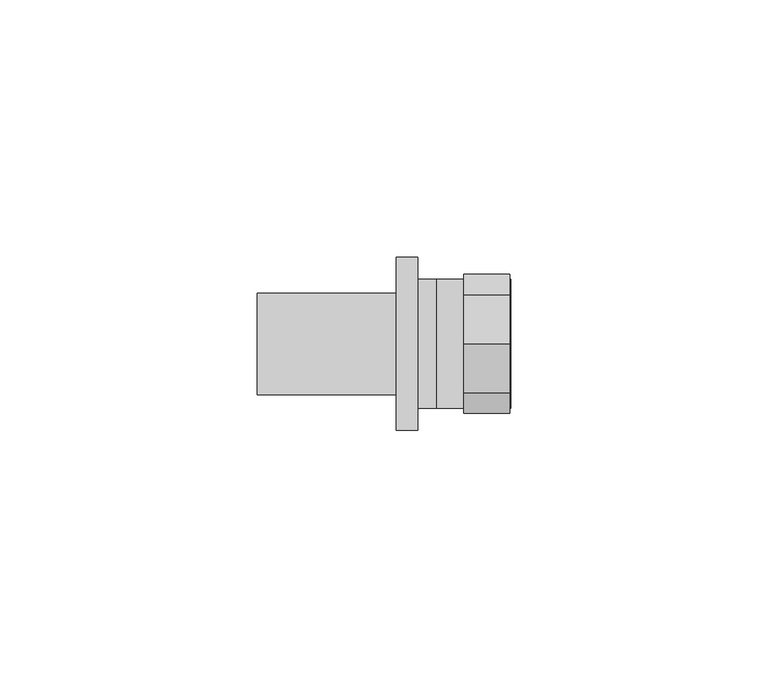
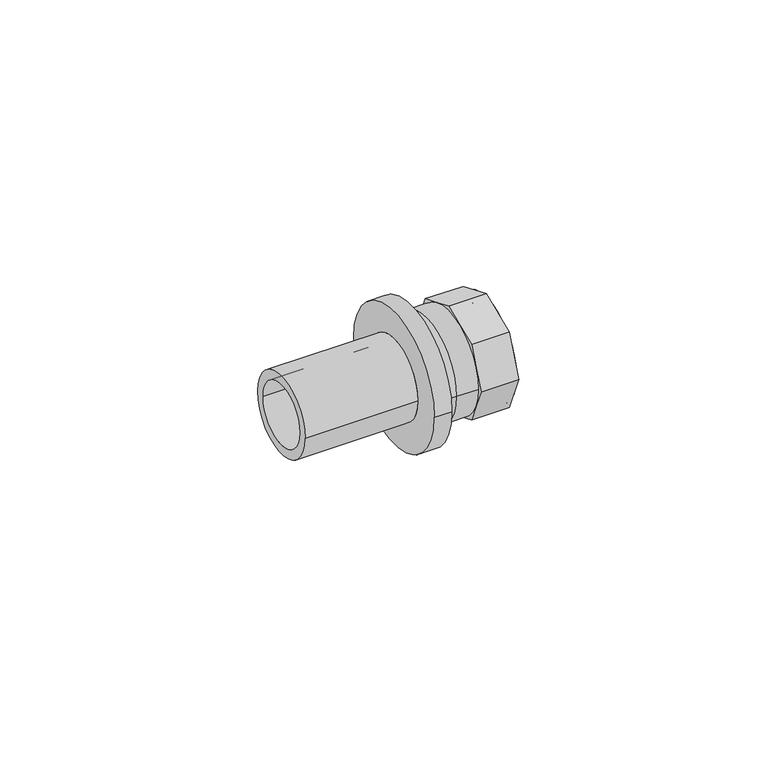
"""IFC4 building model written with IfcOpenShell, lengths in millimetres: pipe fitting geometry, REHAU_RAUTITAN_Adaptor_RX+, with internal thread : REHAU_RAUTITAN_Adaptor_RX+, with internal thread."""

from ifc_helpers import new_model, si_unit, point, frame, origin, origin_2d, place, context, project, spatial, polyline, circle_curve, trimmed, segment, composite_curve, outline, extrude, source, transform, mapped, element, save
from ifc_brep_helpers import plane_surface, cylinder_surface, revolved_surface, advanced_brep


def pipe_fitting_6d607381(model_context):
    return source(origin(), model_context, "Body", "SolidModel", [
        advanced_brep(
        [(4.5, -9.5670858, 9.5670858), (4.5, -13.5299025, 0.0), (4.5, -9.5670858, -9.5670858), (4.5, 0.0, -13.5299025), (4.5, 9.5670858, -9.5670858), (4.5, 13.5299025, 0.0), (4.5, 9.5670858, 9.5670858), (4.5, 0.0, 13.5299025), (4.5, -9.5, 0.0), (4.5, 9.5, 0.0), (-4.5, 10.19, 0.0), (-4.5, -10.19, 0.0), (-4.5, -9.5, 0.0), (-4.5, 9.5, 0.0), (-4.5, -9.5670858, 9.5670858), (-4.5, -4.7835429, 11.5484942), (-4.5, -11.5484942, 4.7835429), (-4.5, 0.0, 13.5299025), (-4.5, 4.7835429, 11.5484942), (-4.5, 9.5670858, 9.5670858), (-4.5, 11.5484942, 4.7835429), (-4.5, 13.5299025, 0.0), (-4.5, 11.5484942, -4.7835429), (-4.5, 12.5, 0.0), (-4.5, 9.5670858, -9.5670858), (-4.5, 4.7835429, -11.5484942), (-4.5, 0.0, -13.5299025), (-4.5, -4.7835429, -11.5484942), (-4.5, -9.5670858, -9.5670858), (-4.5, -11.5484942, -4.7835429), (-4.5, -13.5299025, 0.0), (-4.5, -12.5, 0.0), (-9.82, 12.5, 0.0), (-9.82, -12.5, 0.0), (-13.36, -12.5, 0.0), (-13.36, 12.5, 0.0), (-9.82, 10.19, 0.0), (-9.82, -10.19, 0.0), (-44.56, 7.6, 0.0), (-44.56, -7.6, 0.0), (-13.36, -7.6, 0.0), (-13.36, 7.6, 0.0), (-17.57, 9.875, 0.0), (-17.57, -9.875, 0.0), (-44.56, -9.875, 0.0), (-44.56, 9.875, 0.0), (-13.36, 16.795, 0.0), (-13.36, -16.795, 0.0), (-17.57, -16.795, 0.0), (-17.57, 16.795, 0.0)],
        [
            (0, 1),
            (1, 2),
            (2, 3),
            (3, 4),
            (4, 5),
            (5, 6),
            (6, 7),
            (7, 0),
            (8, 9, circle_curve(frame((4.5, 0.0, 0.0), z_axis=(-1.0, 0.0, 0.0), x_axis=(0.0, 1.0, 0.0)), 9.5)),
            (9, 8, circle_curve(frame((4.5, 0.0, 0.0), z_axis=(-1.0, 0.0, 0.0), x_axis=(0.0, 1.0, 0.0)), 9.5)),
            (10, 11, circle_curve(frame((-4.5, 0.0, 0.0), z_axis=(-1.0, 0.0, 0.0), x_axis=(0.0, -1.0, 0.0)), 10.19)),
            (11, 10, circle_curve(frame((-4.5, 0.0, 0.0), z_axis=(-1.0, 0.0, 0.0), x_axis=(0.0, 1.0, 0.0)), 10.19)),
            (12, 13, circle_curve(frame((-4.5, 0.0, 0.0), z_axis=(1.0, 0.0, 0.0), x_axis=(0.0, 1.0, 0.0)), 9.5)),
            (13, 12, circle_curve(frame((-4.5, 0.0, 0.0), z_axis=(1.0, 0.0, 0.0), x_axis=(0.0, 1.0, 0.0)), 9.5)),
            (14, 15),
            (15, 16, circle_curve(frame((-4.5, 0.0, 0.0), z_axis=(1.0, 0.0, 0.0), x_axis=(0.0, 1.0, 0.0)), 12.5)),
            (16, 14),
            (15, 17),
            (17, 18),
            (18, 15, circle_curve(frame((-4.5, 0.0, 0.0), z_axis=(1.0, 0.0, 0.0), x_axis=(0.0, 1.0, 0.0)), 12.5)),
            (18, 19),
            (19, 20),
            (20, 18, circle_curve(frame((-4.5, 0.0, 0.0), z_axis=(1.0, 0.0, 0.0), x_axis=(0.0, 1.0, 0.0)), 12.5)),
            (20, 21),
            (21, 22),
            (22, 23, circle_curve(frame((-4.5, 0.0, 0.0), z_axis=(1.0, 0.0, 0.0), x_axis=(0.0, -1.0, 0.0)), 12.5)),
            (23, 20, circle_curve(frame((-4.5, 0.0, 0.0), z_axis=(1.0, 0.0, 0.0), x_axis=(0.0, 1.0, 0.0)), 12.5)),
            (22, 24),
            (24, 25),
            (25, 22, circle_curve(frame((-4.5, 0.0, 0.0), z_axis=(1.0, 0.0, 0.0), x_axis=(0.0, -1.0, 0.0)), 12.5)),
            (25, 26),
            (26, 27),
            (27, 25, circle_curve(frame((-4.5, 0.0, 0.0), z_axis=(1.0, 0.0, 0.0), x_axis=(0.0, -1.0, 0.0)), 12.5)),
            (27, 28),
            (28, 29),
            (29, 27, circle_curve(frame((-4.5, 0.0, 0.0), z_axis=(1.0, 0.0, 0.0), x_axis=(0.0, -1.0, 0.0)), 12.5)),
            (29, 30),
            (30, 16),
            (16, 31, circle_curve(frame((-4.5, 0.0, 0.0), z_axis=(1.0, 0.0, 0.0), x_axis=(0.0, 1.0, 0.0)), 12.5)),
            (31, 29, circle_curve(frame((-4.5, 0.0, 0.0), z_axis=(1.0, 0.0, 0.0), x_axis=(0.0, -1.0, 0.0)), 12.5)),
            (8, 12),
            (13, 9),
            (0, 14),
            (30, 1),
            (28, 2),
            (26, 3),
            (24, 4),
            (21, 5),
            (19, 6),
            (17, 7),
            (32, 33, circle_curve(frame((-9.82, 0.0, 0.0), z_axis=(-1.0, 0.0, 0.0), x_axis=(0.0, -1.0, 0.0)), 12.5)),
            (33, 34),
            (34, 35, circle_curve(frame((-13.36, 0.0, 0.0), z_axis=(1.0, 0.0, 0.0), x_axis=(0.0, -1.0, 0.0)), 12.5)),
            (35, 32),
            (32, 23),
            (31, 33),
            (36, 37, circle_curve(frame((-9.82, 0.0, 0.0), z_axis=(-1.0, 0.0, 0.0), x_axis=(0.0, -1.0, 0.0)), 10.19)),
            (37, 11),
            (10, 36),
            (38, 39, circle_curve(frame((-44.56, 0.0, 0.0), z_axis=(-1.0, 0.0, 0.0), x_axis=(0.0, -1.0, 0.0)), 7.6)),
            (39, 40),
            (40, 41, circle_curve(frame((-13.36, 0.0, 0.0), z_axis=(1.0, 0.0, 0.0), x_axis=(0.0, -1.0, 0.0)), 7.6)),
            (41, 38),
            (42, 43, circle_curve(frame((-17.57, 0.0, 0.0), z_axis=(-1.0, 0.0, 0.0), x_axis=(0.0, -1.0, 0.0)), 9.875)),
            (43, 44),
            (44, 45, circle_curve(frame((-44.56, 0.0, 0.0), z_axis=(1.0, 0.0, 0.0), x_axis=(0.0, -1.0, 0.0)), 9.875)),
            (45, 42),
            (46, 47, circle_curve(frame((-13.36, 0.0, 0.0), z_axis=(-1.0, 0.0, 0.0), x_axis=(0.0, -1.0, 0.0)), 16.795)),
            (47, 48),
            (48, 49, circle_curve(frame((-17.57, 0.0, 0.0), z_axis=(1.0, 0.0, 0.0), x_axis=(0.0, -1.0, 0.0)), 16.795)),
            (49, 46),
            (46, 47, circle_curve(frame((-13.36, 0.0, 0.0), z_axis=(1.0, 0.0, 0.0), x_axis=(0.0, 1.0, 0.0)), 16.795)),
            (34, 35, circle_curve(frame((-13.36, 0.0, 0.0), z_axis=(-1.0, 0.0, 0.0), x_axis=(0.0, 1.0, 0.0)), 12.5)),
            (33, 32, circle_curve(frame((-9.82, 0.0, 0.0), z_axis=(-1.0, 0.0, 0.0), x_axis=(0.0, 1.0, 0.0)), 12.5)),
            (37, 36, circle_curve(frame((-9.82, 0.0, 0.0), z_axis=(-1.0, 0.0, 0.0), x_axis=(0.0, 1.0, 0.0)), 10.19)),
            (39, 38, circle_curve(frame((-44.56, 0.0, 0.0), z_axis=(-1.0, 0.0, 0.0), x_axis=(0.0, 1.0, 0.0)), 7.6)),
            (41, 40, circle_curve(frame((-13.36, 0.0, 0.0), z_axis=(1.0, 0.0, 0.0), x_axis=(0.0, 1.0, 0.0)), 7.6)),
            (44, 45, circle_curve(frame((-44.56, 0.0, 0.0), z_axis=(-1.0, 0.0, 0.0), x_axis=(0.0, 1.0, 0.0)), 9.875)),
            (43, 42, circle_curve(frame((-17.57, 0.0, 0.0), z_axis=(-1.0, 0.0, 0.0), x_axis=(0.0, 1.0, 0.0)), 9.875)),
            (48, 49, circle_curve(frame((-17.57, 0.0, 0.0), z_axis=(-1.0, 0.0, 0.0), x_axis=(0.0, 1.0, 0.0)), 16.795)),
            (36, 41),
            (40, 37),
        ],
        [
            plane_surface(frame((4.5, 9.5, 0.0), z_axis=(1.0, 0.0, 0.0), x_axis=(0.0, 0.0, -1.0))),
            plane_surface(frame((-4.5, 9.5, 0.0), z_axis=(-1.0, 0.0, 0.0), x_axis=(0.0, 0.0, 1.0))),
            revolved_surface(polyline([(-4.5, 9.5, 0.0), (4.5, 9.5, 0.0)]), (-4.5, 0.0, 0.0), (-1.0, 0.0, 0.0)),
            plane_surface(frame((4.5, -9.5670858, 9.5670858), z_axis=(0.0, -0.9238795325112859, 0.3826834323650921), x_axis=(-1.0, 0.0, 0.0))),
            plane_surface(frame((4.5, -13.5299025, 0.0), z_axis=(0.0, -0.9238795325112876, -0.3826834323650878), x_axis=(-1.0, 0.0, 0.0))),
            plane_surface(frame((4.5, -9.5670858, -9.5670858), z_axis=(0.0, -0.3826834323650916, -0.9238795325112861), x_axis=(-1.0, 0.0, 0.0))),
            plane_surface(frame((4.5, 0.0, -13.5299025), z_axis=(0.0, 0.3826834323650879, -0.9238795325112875), x_axis=(-1.0, 0.0, 0.0))),
            plane_surface(frame((4.5, 9.5670858, -9.5670858), z_axis=(0.0, 0.9238795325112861, -0.3826834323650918), x_axis=(-1.0, 0.0, 0.0))),
            plane_surface(frame((4.5, 13.5299025, 0.0), z_axis=(0.0, 0.9238795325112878, 0.3826834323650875), x_axis=(-1.0, 0.0, 0.0))),
            plane_surface(frame((4.5, 9.5670858, 9.5670858), z_axis=(0.0, 0.382683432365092, 0.9238795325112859), x_axis=(-1.0, 0.0, 0.0))),
            plane_surface(frame((4.5, 0.0, 13.5299025), z_axis=(0.0, -0.3826834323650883, 0.9238795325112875), x_axis=(-1.0, 0.0, 0.0))),
            cylinder_surface(frame((0.0, 0.0, 0.0), z_axis=(1.0, 0.0, 0.0), x_axis=(0.0, -1.0, 0.0)), 12.5),
            revolved_surface(polyline([(-4.5, -10.19, 0.0), (-9.82, -10.19, 0.0)]), (0.0, 0.0, 0.0), (1.0, 0.0, 0.0)),
            revolved_surface(polyline([(-13.36, -7.6, 0.0), (-44.56, -7.6, 0.0)]), (0.0, 0.0, 0.0), (1.0, 0.0, 0.0)),
            cylinder_surface(frame((0.0, 0.0, 0.0), z_axis=(1.0, 0.0, 0.0), x_axis=(0.0, -1.0, 0.0)), 9.875),
            cylinder_surface(frame((0.0, 0.0, 0.0), z_axis=(1.0, 0.0, 0.0), x_axis=(0.0, -1.0, 0.0)), 16.795),
            plane_surface(frame((-13.36, 0.0, 0.0), z_axis=(1.0, 0.0, 0.0), x_axis=(0.0, 1.0, 0.0))),
            cylinder_surface(frame((0.0, 0.0, 0.0), z_axis=(1.0, 0.0, 0.0), x_axis=(0.0, 1.0, 0.0)), 12.5),
            revolved_surface(polyline([(-4.5, 10.19, 0.0), (-9.82, 10.19, 0.0)]), (0.0, 0.0, 0.0), (1.0, 0.0, 0.0)),
            revolved_surface(polyline([(-13.36, 7.6, 0.0), (-44.56, 7.6, 0.0)]), (0.0, 0.0, 0.0), (1.0, 0.0, 0.0)),
            plane_surface(frame((-44.56, 0.0, 0.0), z_axis=(-1.0, 0.0, 0.0), x_axis=(0.0, 1.0, 0.0))),
            cylinder_surface(frame((0.0, 0.0, 0.0), z_axis=(1.0, 0.0, 0.0), x_axis=(0.0, 1.0, 0.0)), 9.875),
            plane_surface(frame((-17.57, 0.0, 0.0), z_axis=(-1.0, 0.0, 0.0), x_axis=(0.0, 1.0, 0.0))),
            cylinder_surface(frame((0.0, 0.0, 0.0), z_axis=(1.0, 0.0, 0.0), x_axis=(0.0, 1.0, 0.0)), 16.795),
            revolved_surface(polyline([(-9.82, -10.19, 0.0), (-13.36, -7.6, 0.0)]), (0.0, 0.0, 0.0), (1.0, 0.0, 0.0)),
            revolved_surface(polyline([(-9.82, 10.19, 0.0), (-13.36, 7.6, 0.0)]), (0.0, 0.0, 0.0), (1.0, 0.0, 0.0)),
        ],
        [
            (0, [[1, 2, 3, 4, 5, 6, 7, 8], [9, 10]]),
            (1, [[11, 12], [13, 14]]),
            (1, [[15, 16, 17]]),
            (1, [[18, 19, 20]]),
            (1, [[21, 22, 23]]),
            (1, [[24, 25, 26, 27]]),
            (1, [[28, 29, 30]]),
            (1, [[31, 32, 33]]),
            (1, [[34, 35, 36]]),
            (1, [[37, 38, 39, 40]]),
            (2, [[-9, 41, -14, 42]]),
            (2, [[-10, -42, -13, -41]]),
            (3, [[-1, 43, -17, -38, 44]]),
            (4, [[-2, -44, -37, -35, 45]]),
            (5, [[-3, -45, -34, -32, 46]]),
            (6, [[-4, -46, -31, -29, 47]]),
            (7, [[-5, -47, -28, -25, 48]]),
            (8, [[-6, -48, -24, -22, 49]]),
            (9, [[-7, -49, -21, -19, 50]]),
            (10, [[-8, -50, -18, -15, -43]]),
            (11, [[51, 52, 53, 54]]),
            (11, [[-51, 55, -26, -30, -33, -36, -40, 56]]),
            (12, [[57, 58, -11, 59]]),
            (13, [[60, 61, 62, 63]]),
            (14, [[64, 65, 66, 67]]),
            (15, [[68, 69, 70, 71]]),
            (16, [[-68, 72], [-53, 73]]),
            (17, [[-52, 74, -54, -73]]),
            (17, [[-56, -39, -16, -20, -23, -27, -55, -74]]),
            (18, [[-58, 75, -59, -12]]),
            (19, [[-61, 76, -63, 77]]),
            (20, [[-66, 78], [-60, -76]]),
            (21, [[-65, 79, -67, -78]]),
            (22, [[-70, 80], [-64, -79]]),
            (23, [[-69, -72, -71, -80]]),
            (24, [[-57, 81, -62, 82]]),
            (25, [[-75, -82, -77, -81]]),
        ],
    ),
        extrude(outline(composite_curve([segment(trimmed(circle_curve(origin_2d(), 12.5), [point((-12.5, 0.0))], [point((12.5, 0.0))], False, "CARTESIAN"), True, "CONTINUOUS"), segment(trimmed(circle_curve(origin_2d(), 12.5), [point((12.5, 0.0))], [point((-12.5, 0.0))], False, "CARTESIAN"), True, "CONTINUOUS")], self_intersect=False), holes=[composite_curve([segment(trimmed(circle_curve(origin_2d(), 10.19), [point((-10.19, 0.0))], [point((10.19, 0.0))], True, "CARTESIAN"), True, "CONTINUOUS"), segment(trimmed(circle_curve(origin_2d(), 10.19), [point((10.19, 0.0))], [point((-10.19, 0.0))], True, "CARTESIAN"), True, "CONTINUOUS")], self_intersect=False)]), frame((-4.5, 0.0, 0.0), z_axis=(1.0, 0.0, 0.0), x_axis=(0.0, 1.0, 0.0)), (0.0, 0.0, 1.0), 9.14),
    ])


if __name__ == "__main__":
    model = new_model("IFC4")
    model_context = context("Model", 3, world=origin())
    ifc_project = project(units=[si_unit("LENGTHUNIT", "METRE", prefix="MILLI")], contexts=[model_context])
    site = spatial("IfcSite", under=ifc_project)
    building = spatial("IfcBuilding", under=site)
    placement = place(None, origin())
    pipe_fitting_shape = pipe_fitting_6d607381(model_context)
    element("IfcPipeFitting", 1, ObjectType="REHAU_RAUTITAN_Adaptor_RX+, with internal thread : REHAU_RAUTITAN_Adaptor_RX+, with internal thread", at=placement, inside=building, context=model_context, shape_type="MappedRepresentation", body=[
        mapped(pipe_fitting_shape, transform((0.0, 0.0, 0.0), x_axis=(1.0, 0.0, 0.0), y_axis=(0.0, 1.0, 0.0), z_axis=(0.0, 0.0, 1.0))),
    ])
    save(model, "model.ifc")
